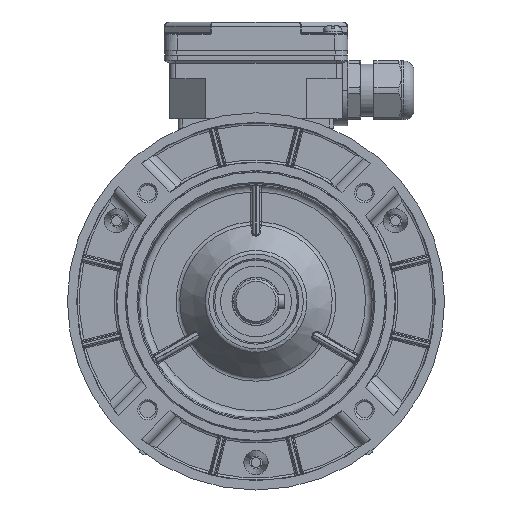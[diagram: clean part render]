
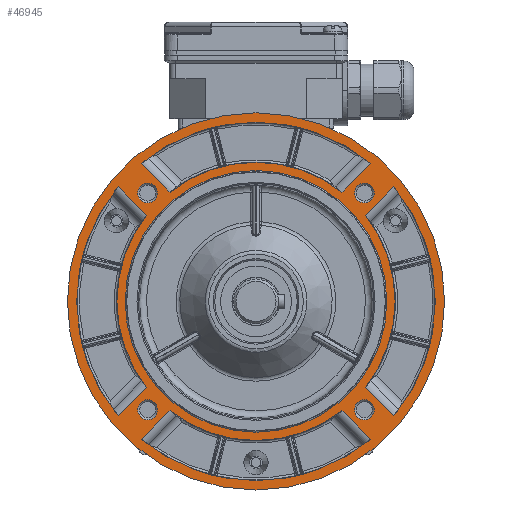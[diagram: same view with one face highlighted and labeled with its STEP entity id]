
A CAD part, left-side view. The second image highlights one B-rep face of the part: STEP entity #46945.
In plain terms, the highlighted planar face has unit normal (-1, 0, 0).
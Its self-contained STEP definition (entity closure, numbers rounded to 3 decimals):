
#4651=LINE('',#95725,#7879);
#4652=LINE('',#95734,#7880);
#4653=LINE('',#95753,#7881);
#4654=LINE('',#95762,#7882);
#4655=LINE('',#95769,#7883);
#4656=LINE('',#95788,#7884);
#4657=LINE('',#95809,#7885);
#4658=LINE('',#95818,#7886);
#7879=VECTOR('',#78987,1000.);
#7880=VECTOR('',#78994,1000.);
#7881=VECTOR('',#79001,1000.);
#7882=VECTOR('',#79008,1000.);
#7883=VECTOR('',#79011,1000.);
#7884=VECTOR('',#79018,1000.);
#7885=VECTOR('',#79029,1000.);
#7886=VECTOR('',#79036,1000.);
#9676=PLANE('',#69725);
#19237=ORIENTED_EDGE('',*,*,#29323,.T.);
#19238=ORIENTED_EDGE('',*,*,#29082,.T.);
#19239=ORIENTED_EDGE('',*,*,#29081,.T.);
#19240=ORIENTED_EDGE('',*,*,#29080,.T.);
#19241=ORIENTED_EDGE('',*,*,#29079,.T.);
#19242=ORIENTED_EDGE('',*,*,#29078,.T.);
#19243=ORIENTED_EDGE('',*,*,#29077,.T.);
#19244=ORIENTED_EDGE('',*,*,#29075,.T.);
#19245=ORIENTED_EDGE('',*,*,#29074,.F.);
#19246=ORIENTED_EDGE('',*,*,#29071,.F.);
#19247=ORIENTED_EDGE('',*,*,#29069,.T.);
#19248=ORIENTED_EDGE('',*,*,#29068,.F.);
#19249=ORIENTED_EDGE('',*,*,#29065,.F.);
#19250=ORIENTED_EDGE('',*,*,#29063,.T.);
#19251=ORIENTED_EDGE('',*,*,#29061,.T.);
#19252=ORIENTED_EDGE('',*,*,#29059,.T.);
#19253=ORIENTED_EDGE('',*,*,#29058,.F.);
#19254=ORIENTED_EDGE('',*,*,#29055,.F.);
#19255=ORIENTED_EDGE('',*,*,#29053,.T.);
#19256=ORIENTED_EDGE('',*,*,#29051,.T.);
#19257=ORIENTED_EDGE('',*,*,#29050,.F.);
#19258=ORIENTED_EDGE('',*,*,#29047,.F.);
#29047=EDGE_CURVE('',#34805,#34806,#37998,.T.);
#29050=EDGE_CURVE('',#34806,#34807,#4651,.T.);
#29051=EDGE_CURVE('',#34808,#34807,#37999,.T.);
#29053=EDGE_CURVE('',#34805,#34808,#4652,.T.);
#29055=EDGE_CURVE('',#34809,#34810,#38000,.T.);
#29058=EDGE_CURVE('',#34810,#34811,#4653,.T.);
#29059=EDGE_CURVE('',#34812,#34811,#38001,.T.);
#29061=EDGE_CURVE('',#34809,#34812,#4654,.T.);
#29063=EDGE_CURVE('',#34814,#34813,#4655,.T.);
#29065=EDGE_CURVE('',#34814,#34815,#38002,.T.);
#29068=EDGE_CURVE('',#34815,#34816,#4656,.T.);
#29069=EDGE_CURVE('',#34813,#34816,#38003,.T.);
#29071=EDGE_CURVE('',#34817,#34818,#38004,.T.);
#29074=EDGE_CURVE('',#34818,#34819,#4657,.T.);
#29075=EDGE_CURVE('',#34820,#34819,#38005,.T.);
#29077=EDGE_CURVE('',#34817,#34820,#4658,.T.);
#29078=EDGE_CURVE('',#34821,#34821,#38006,.T.);
#29079=EDGE_CURVE('',#34822,#34822,#38007,.F.);
#29080=EDGE_CURVE('',#34823,#34823,#38008,.F.);
#29081=EDGE_CURVE('',#34824,#34824,#38009,.F.);
#29082=EDGE_CURVE('',#34825,#34825,#38010,.F.);
#29323=EDGE_CURVE('',#34958,#34958,#38075,.F.);
#34805=VERTEX_POINT('',#95712);
#34806=VERTEX_POINT('',#95714);
#34807=VERTEX_POINT('',#95724);
#34808=VERTEX_POINT('',#95728);
#34809=VERTEX_POINT('',#95740);
#34810=VERTEX_POINT('',#95742);
#34811=VERTEX_POINT('',#95752);
#34812=VERTEX_POINT('',#95756);
#34813=VERTEX_POINT('',#95768);
#34814=VERTEX_POINT('',#95770);
#34815=VERTEX_POINT('',#95777);
#34816=VERTEX_POINT('',#95787);
#34817=VERTEX_POINT('',#95796);
#34818=VERTEX_POINT('',#95798);
#34819=VERTEX_POINT('',#95808);
#34820=VERTEX_POINT('',#95812);
#34821=VERTEX_POINT('',#95821);
#34822=VERTEX_POINT('',#95824);
#34823=VERTEX_POINT('',#95827);
#34824=VERTEX_POINT('',#95830);
#34825=VERTEX_POINT('',#95833);
#34958=VERTEX_POINT('',#96476);
#37998=CIRCLE('',#69506,76.);
#37999=CIRCLE('',#69509,59.);
#38000=CIRCLE('',#69512,76.);
#38001=CIRCLE('',#69515,59.);
#38002=CIRCLE('',#69519,76.);
#38003=CIRCLE('',#69522,59.);
#38004=CIRCLE('',#69524,76.);
#38005=CIRCLE('',#69527,59.);
#38006=CIRCLE('',#69530,80.);
#38007=CIRCLE('',#69532,4.2);
#38008=CIRCLE('',#69534,4.2);
#38009=CIRCLE('',#69536,4.2);
#38010=CIRCLE('',#69538,4.2);
#38075=CIRCLE('',#69726,55.5);
#40763=EDGE_LOOP('',(#19237));
#40764=EDGE_LOOP('',(#19238));
#40765=EDGE_LOOP('',(#19239));
#40766=EDGE_LOOP('',(#19240));
#40767=EDGE_LOOP('',(#19241));
#40768=EDGE_LOOP('',(#19242));
#40769=EDGE_LOOP('',(#19243,#19244,#19245,#19246));
#40770=EDGE_LOOP('',(#19247,#19248,#19249,#19250));
#40771=EDGE_LOOP('',(#19251,#19252,#19253,#19254));
#40772=EDGE_LOOP('',(#19255,#19256,#19257,#19258));
#43971=FACE_BOUND('',#40763,.T.);
#43972=FACE_BOUND('',#40764,.T.);
#43973=FACE_BOUND('',#40765,.T.);
#43974=FACE_BOUND('',#40766,.T.);
#43975=FACE_BOUND('',#40767,.T.);
#43976=FACE_BOUND('',#40768,.T.);
#43977=FACE_BOUND('',#40769,.T.);
#43978=FACE_BOUND('',#40770,.T.);
#43979=FACE_BOUND('',#40771,.T.);
#43980=FACE_BOUND('',#40772,.T.);
#46945=ADVANCED_FACE('',(#43971,#43972,#43973,#43974,#43975,#43976,#43977,
#43978,#43979,#43980),#9676,.T.);
#69506=AXIS2_PLACEMENT_3D('',#95713,#78983,#78984);
#69509=AXIS2_PLACEMENT_3D('',#95727,#78990,#78991);
#69512=AXIS2_PLACEMENT_3D('',#95741,#78997,#78998);
#69515=AXIS2_PLACEMENT_3D('',#95755,#79004,#79005);
#69519=AXIS2_PLACEMENT_3D('',#95776,#79014,#79015);
#69522=AXIS2_PLACEMENT_3D('',#95790,#79021,#79022);
#69524=AXIS2_PLACEMENT_3D('',#95797,#79025,#79026);
#69527=AXIS2_PLACEMENT_3D('',#95811,#79032,#79033);
#69530=AXIS2_PLACEMENT_3D('',#95820,#79039,#79040);
#69532=AXIS2_PLACEMENT_3D('',#95823,#79043,#79044);
#69534=AXIS2_PLACEMENT_3D('',#95826,#79047,#79048);
#69536=AXIS2_PLACEMENT_3D('',#95829,#79051,#79052);
#69538=AXIS2_PLACEMENT_3D('',#95832,#79055,#79056);
#69725=AXIS2_PLACEMENT_3D('',#96474,#79577,#79578);
#69726=AXIS2_PLACEMENT_3D('',#96475,#79579,#79580);
#78983=DIRECTION('',(-1.,0.,0.));
#78984=DIRECTION('',(0.,0.,1.));
#78987=DIRECTION('',(0.,-0.707,0.707));
#78990=DIRECTION('',(-1.,0.,0.));
#78991=DIRECTION('',(0.,0.,1.));
#78994=DIRECTION('',(0.,-0.707,-0.707));
#78997=DIRECTION('',(-1.,0.,0.));
#78998=DIRECTION('',(0.,0.,1.));
#79001=DIRECTION('',(0.,-0.707,-0.707));
#79004=DIRECTION('',(-1.,0.,0.));
#79005=DIRECTION('',(0.,0.,1.));
#79008=DIRECTION('',(0.,0.707,-0.707));
#79011=DIRECTION('',(0.,-0.707,0.707));
#79014=DIRECTION('',(-1.,0.,0.));
#79015=DIRECTION('',(0.,0.,1.));
#79018=DIRECTION('',(0.,0.707,0.707));
#79021=DIRECTION('',(-1.,0.,0.));
#79022=DIRECTION('',(0.,0.,1.));
#79025=DIRECTION('',(-1.,0.,0.));
#79026=DIRECTION('',(0.,0.,1.));
#79029=DIRECTION('',(0.,0.707,-0.707));
#79032=DIRECTION('',(-1.,0.,0.));
#79033=DIRECTION('',(0.,0.,1.));
#79036=DIRECTION('',(0.,0.707,0.707));
#79039=DIRECTION('',(-1.,0.,0.));
#79040=DIRECTION('',(0.,1.,0.));
#79043=DIRECTION('',(-1.,0.,0.));
#79044=DIRECTION('',(0.,-1.,0.));
#79047=DIRECTION('',(-1.,0.,0.));
#79048=DIRECTION('',(0.,-1.,0.));
#79051=DIRECTION('',(-1.,0.,0.));
#79052=DIRECTION('',(0.,-1.,0.));
#79055=DIRECTION('',(-1.,0.,0.));
#79056=DIRECTION('',(0.,-1.,0.));
#79577=DIRECTION('',(-1.,0.,0.));
#79578=DIRECTION('',(0.,-1.,0.));
#79579=DIRECTION('',(-1.,0.,0.));
#79580=DIRECTION('',(0.,-1.,0.));
#95712=CARTESIAN_POINT('',(-44.8,58.461,48.562));
#95713=CARTESIAN_POINT('',(-44.8,0.,0.));
#95714=CARTESIAN_POINT('',(-44.8,58.461,-48.562));
#95724=CARTESIAN_POINT('',(-44.8,46.374,-36.475));
#95725=CARTESIAN_POINT('',(-44.8,70.057,-60.157));
#95727=CARTESIAN_POINT('',(-44.8,0.,0.));
#95728=CARTESIAN_POINT('',(-44.8,46.374,36.475));
#95734=CARTESIAN_POINT('',(-44.8,70.057,60.157));
#95740=CARTESIAN_POINT('',(-44.8,-48.562,58.461));
#95741=CARTESIAN_POINT('',(-44.8,0.,0.));
#95742=CARTESIAN_POINT('',(-44.8,48.562,58.461));
#95752=CARTESIAN_POINT('',(-44.8,36.475,46.374));
#95753=CARTESIAN_POINT('',(-44.8,60.157,70.057));
#95755=CARTESIAN_POINT('',(-44.8,0.,0.));
#95756=CARTESIAN_POINT('',(-44.8,-36.475,46.374));
#95762=CARTESIAN_POINT('',(-44.8,-60.157,70.057));
#95768=CARTESIAN_POINT('',(-44.8,36.475,-46.374));
#95769=CARTESIAN_POINT('',(-44.8,60.157,-70.057));
#95770=CARTESIAN_POINT('',(-44.8,48.562,-58.461));
#95776=CARTESIAN_POINT('',(-44.8,0.,0.));
#95777=CARTESIAN_POINT('',(-44.8,-48.562,-58.461));
#95787=CARTESIAN_POINT('',(-44.8,-36.475,-46.374));
#95788=CARTESIAN_POINT('',(-44.8,-60.157,-70.057));
#95790=CARTESIAN_POINT('',(-44.8,0.,0.));
#95796=CARTESIAN_POINT('',(-44.8,-58.461,-48.562));
#95797=CARTESIAN_POINT('',(-44.8,0.,0.));
#95798=CARTESIAN_POINT('',(-44.8,-58.461,48.562));
#95808=CARTESIAN_POINT('',(-44.8,-46.374,36.475));
#95809=CARTESIAN_POINT('',(-44.8,-70.057,60.157));
#95811=CARTESIAN_POINT('',(-44.8,0.,0.));
#95812=CARTESIAN_POINT('',(-44.8,-46.374,-36.475));
#95818=CARTESIAN_POINT('',(-44.8,-70.057,-60.157));
#95820=CARTESIAN_POINT('',(-44.8,0.,0.));
#95821=CARTESIAN_POINT('',(-44.8,80.,0.));
#95823=CARTESIAN_POINT('',(-44.8,45.962,-45.962));
#95824=CARTESIAN_POINT('',(-44.8,41.762,-45.962));
#95826=CARTESIAN_POINT('',(-44.8,45.962,45.962));
#95827=CARTESIAN_POINT('',(-44.8,41.762,45.962));
#95829=CARTESIAN_POINT('',(-44.8,-45.962,45.962));
#95830=CARTESIAN_POINT('',(-44.8,-50.162,45.962));
#95832=CARTESIAN_POINT('',(-44.8,-45.962,-45.962));
#95833=CARTESIAN_POINT('',(-44.8,-50.162,-45.962));
#96474=CARTESIAN_POINT('',(-44.8,0.,0.));
#96475=CARTESIAN_POINT('',(-44.8,0.,0.));
#96476=CARTESIAN_POINT('',(-44.8,-55.5,0.));
